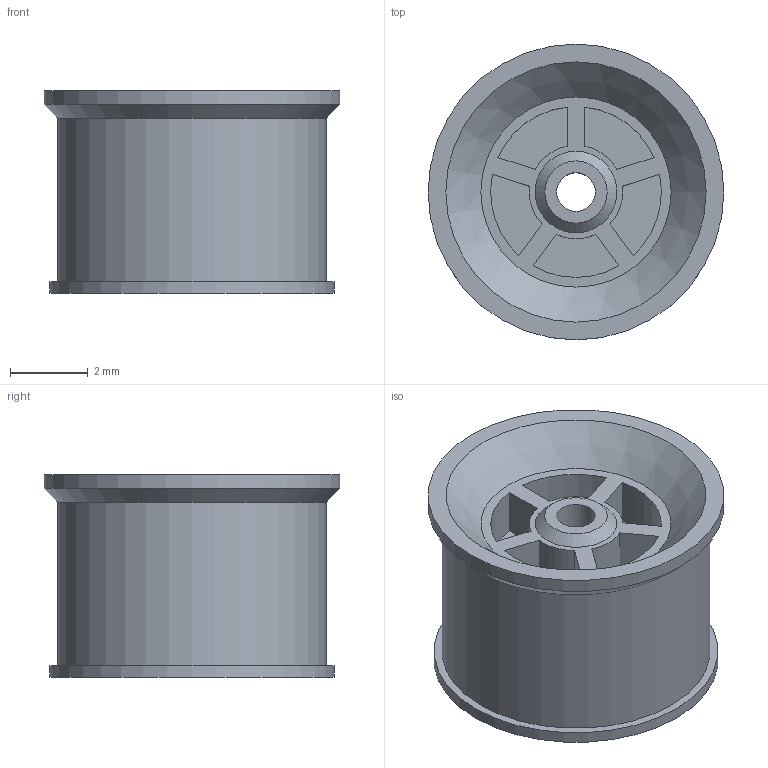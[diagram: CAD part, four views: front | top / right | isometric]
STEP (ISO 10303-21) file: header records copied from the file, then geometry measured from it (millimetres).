
FILE_DESCRIPTION(('Open CASCADE Model'),'2;1');
FILE_NAME('Open CASCADE Shape Model','2026-10-09T16:33:03',('Author'),( 'Open CASCADE'),'Open CASCADE STEP processor 8.0','build123d', 'Unknown');
FILE_SCHEMA(('AUTOMOTIVE_DESIGN { 1 0 10303 214 1 1 1 1 }'));
Length unit declared in the file: millimetre
Products named in the file (1): COMPOUND
Bounding box: 7.6 x 7.6 x 5.2 mm (x, y, z)
Volume: 163.2 mm3; surface area: 261.5 mm2
Topology: 1 solids, 1 shells, 37 faces, 79 edges, 52 vertices
Faces by surface type: plane 20, cylinder 14, cone 3
Full cylindrical faces by diameter (mm): 1 x1, 6.9 x1, 7.3 x1, 7.6 x1
Entity records: 2062 total; most frequent: CARTESIAN_POINT 414, DIRECTION 313, ORIENTED_EDGE 158, PCURVE 158, DEFINITIONAL_REPRESENTATION 158, LINE 154, VECTOR 154, EDGE_CURVE 79
